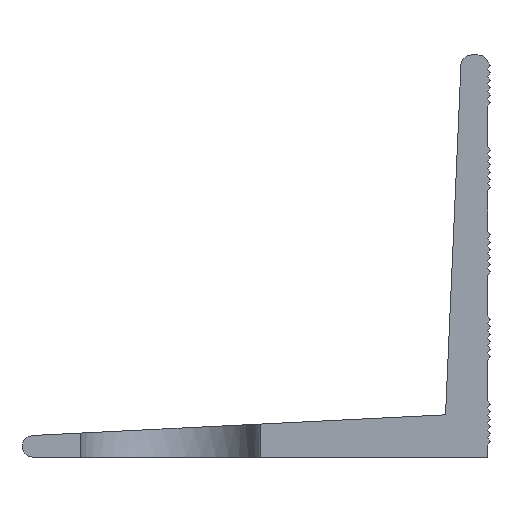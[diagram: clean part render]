
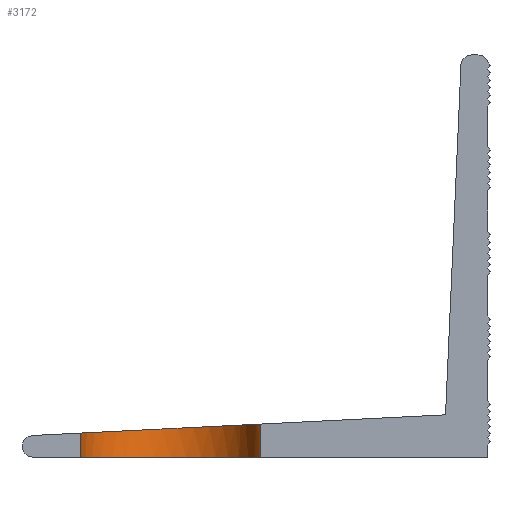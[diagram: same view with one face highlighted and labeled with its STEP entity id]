
A CAD part, left-side view. The second image highlights one B-rep face of the part: STEP entity #3172.
In plain terms, the highlighted cylindrical face has radius 8.5 mm (diameter 17 mm), a partial arc.
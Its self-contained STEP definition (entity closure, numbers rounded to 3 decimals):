
#3172=ADVANCED_FACE('',(#6626),#6628,.F.);
#6626=FACE_BOUND('',#6627,.T.);
#6627=EDGE_LOOP('',(#9656,#9657,#9658,#9659));
#6628=CYLINDRICAL_SURFACE('',#6629,8.5);
#6629=AXIS2_PLACEMENT_3D('',#6630,#6631,#6632);
#6630=CARTESIAN_POINT('',(0.,30.,20.));
#6631=DIRECTION('',(0.,0.,-1.));
#6632=DIRECTION('',(0.,1.,0.));
#9656=ORIENTED_EDGE('',*,*,#10479,.F.);
#9657=ORIENTED_EDGE('',*,*,#11253,.F.);
#9658=ORIENTED_EDGE('',*,*,#10518,.F.);
#9659=ORIENTED_EDGE('',*,*,#10820,.F.);
#10479=EDGE_CURVE('',#12196,#12198,#12199,.T.);
#10518=EDGE_CURVE('',#12270,#12272,#12273,.F.);
#10820=EDGE_CURVE('',#12198,#12270,#12873,.T.);
#11253=EDGE_CURVE('',#12272,#12196,#13439,.F.);
#12196=VERTEX_POINT('',#15468);
#12198=VERTEX_POINT('',#15472);
#12199=(BOUNDED_CURVE()B_SPLINE_CURVE(3,
(#15473,#15474,#15475,#15476),
.UNSPECIFIED.,.F.,.F.)B_SPLINE_CURVE_WITH_KNOTS((4,4),
(0.,1.),
.UNSPECIFIED.)CURVE()GEOMETRIC_REPRESENTATION_ITEM()RATIONAL_B_SPLINE_CURVE((1.,
0.333,0.333,1.))REPRESENTATION_ITEM(''));
#12270=VERTEX_POINT('',#15753);
#12272=VERTEX_POINT('',#15757);
#12273=CIRCLE('',#15758,8.5);
#12873=LINE('',#17095,#17096);
#13439=LINE('',#18660,#18661);
#15468=CARTESIAN_POINT('',(0.,38.5,2.275));
#15472=CARTESIAN_POINT('',(0.,21.5,3.125));
#15473=CARTESIAN_POINT('',(0.,38.5,2.275));
#15474=CARTESIAN_POINT('',(17.,38.5,2.275));
#15475=CARTESIAN_POINT('',(17.,21.5,3.125));
#15476=CARTESIAN_POINT('',(0.,21.5,3.125));
#15753=CARTESIAN_POINT('',(0.,21.5,0.));
#15757=CARTESIAN_POINT('',(0.,38.5,0.));
#15758=AXIS2_PLACEMENT_3D('',#15759,#15760,#15761);
#15759=CARTESIAN_POINT('',(0.,30.,0.));
#15760=DIRECTION('',(0.,0.,-1.));
#15761=DIRECTION('',(0.,1.,0.));
#17095=CARTESIAN_POINT('',(0.,21.5,3.125));
#17096=VECTOR('',#17097,1.);
#17097=DIRECTION('',(0.,0.,-1.));
#18660=CARTESIAN_POINT('',(0.,38.5,2.275));
#18661=VECTOR('',#18662,1.);
#18662=DIRECTION('',(0.,0.,-1.));
